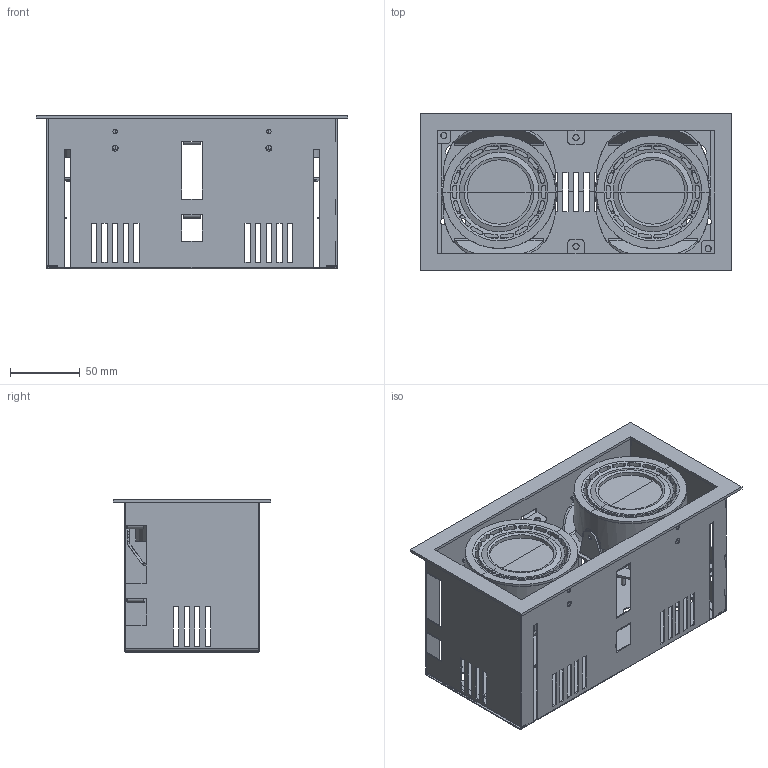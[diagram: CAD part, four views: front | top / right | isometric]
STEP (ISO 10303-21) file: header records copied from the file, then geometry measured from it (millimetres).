
FILE_DESCRIPTION(/* description */ (''),/* implementation_level */ '2;1');
FILE_NAME(/* name */ 'C:\Users\FrancoSartori\Documents\FARO\01_En Proceso\000_PRO\00_1 NANO COLIN\03_Publicación\035005003.stp',/* time_stamp */ '2021-08-31T09:43:13+02:00',/* author */ ('FrancoSartori'),/* organization */ (''),/* preprocessor_version */ 'ST-DEVELOPER v18.1',/* originating_system */ 'AutoCAD Mechanical',/* authorisation */ '');
FILE_SCHEMA (('AUTOMOTIVE_DESIGN { 1 0 10303 214 3 1 1 }'));
Products named in the file (2): Product; NANO COLIN-2_ - Lamp-497446-Export
Assembly tree (1 placements, depth 2):
  Product
    NANO COLIN-2_ - Lamp-497446-Export
Bounding box: 223 x 113 x 109.84 mm (x, y, z)
Volume: 268968.8 mm3; surface area: 356903.3 mm2
Topology: 74 solids, 74 shells, 1498 faces, 4036 edges, 2596 vertices
Faces by surface type: plane 728, cylinder 502, torus 144, cone 80, bspline 44
Entity records: 53781 total; most frequent: CARTESIAN_POINT 15940, ORIENTED_EDGE 8072, DIRECTION 7638, EDGE_CURVE 4036, AXIS2_PLACEMENT_3D 2757, VERTEX_POINT 2596, LINE 2124, VECTOR 2124
